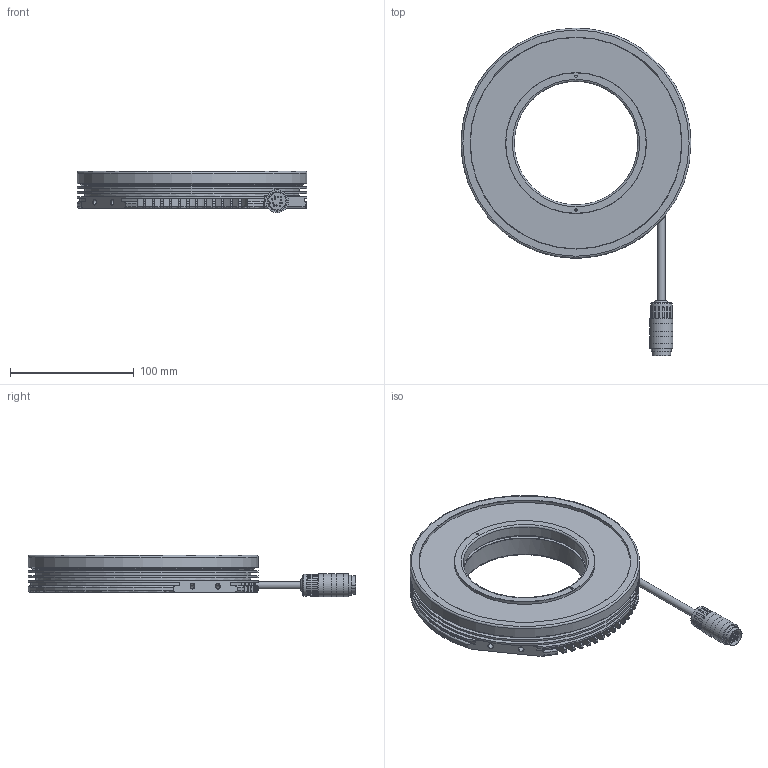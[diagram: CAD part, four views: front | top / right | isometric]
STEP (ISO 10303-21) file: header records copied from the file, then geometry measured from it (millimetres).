
FILE_DESCRIPTION(/* description */ (''),/* implementation_level */ '2;1');
FILE_NAME(/* name */ 'LRHP100 10X.0085.0Y.0Z',/* time_stamp */ '2023-04-19T11:29:52+02:00',/* author */ (''),/* organization */ ('iiM AG'),/* preprocessor_version */ 'ST-DEVELOPER v16.7',/* originating_system */ 'DEX',/* authorisation */ $);
FILE_SCHEMA (('CONFIG_CONTROL_DESIGN'));
Length unit declared in the file: millimetre
Products named in the file (1): LRHP100 10X.0085.0Y.0Z
Bounding box: 186 x 265.05 x 33.49 mm (x, y, z)
Volume: 245411.6 mm3; surface area: 165961.3 mm2
Topology: 3 solids, 3 shells, 578 faces, 1496 edges, 964 vertices
Faces by surface type: plane 235, cylinder 209, torus 59, cone 45, bspline 17, sphere 13
Full cylindrical faces by diameter (mm): 1 x12, 1.567 x16, 2 x2, 2.013 x4, 4.134 x16, 6 x1, 6.2 x1, 8 x1, 9 x1, 11 x3, 11.89 x1, 13 x1, 14 x1, 14.5 x1, 15 x1, 16 x1, 17.5 x1, 18.5 x3, 18.6 x2, 100 x2, 104.4 x1, 105 x2, 106.155 x1, 107 x1, 108 x1, 111 x1, 111.5 x1, 114 x1, 171 x1, 173 x1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
Entity records: 25704 total; most frequent: CARTESIAN_POINT 8677, DIRECTION 2681, ORIENTED_EDGE 2486, EDGE_CURVE 1243, AXIS2_PLACEMENT_3D 1072, VERTEX_POINT 888, FACE_BOUND 809, EDGE_LOOP 801
